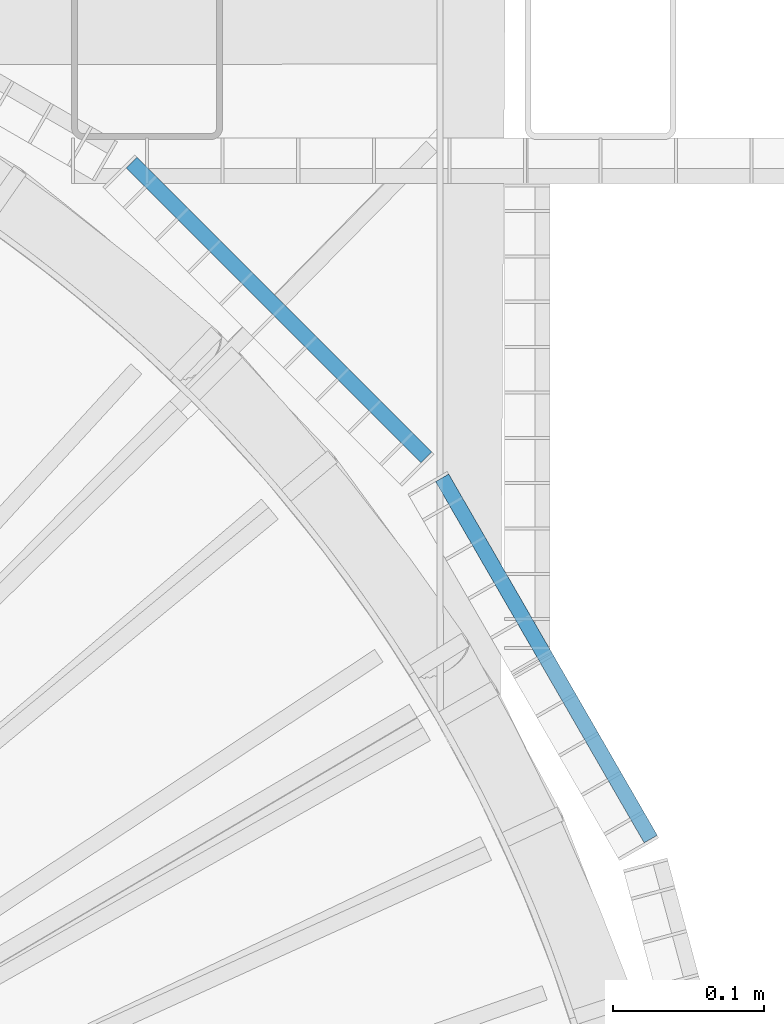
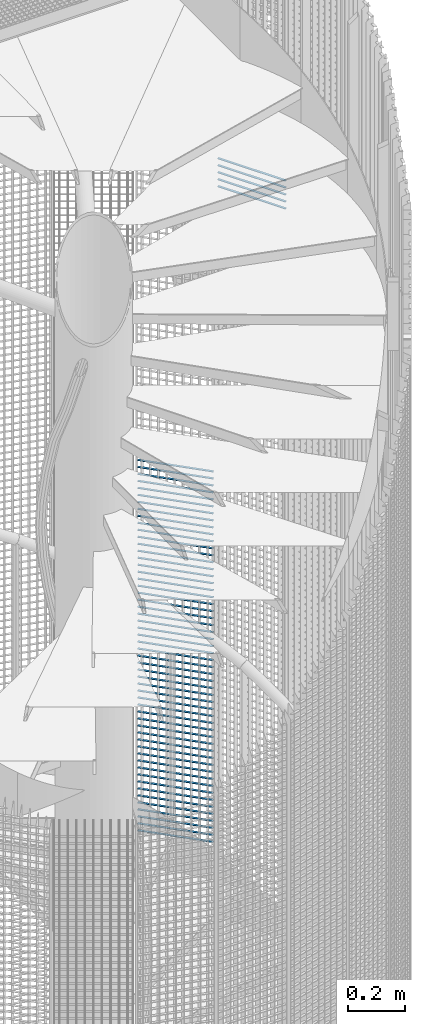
# One storey, part 298 of 1183: 59 beams, 2 elements without a shape of their own.
"""IFC2X3 building model written with IfcOpenShell, lengths in millimetres."""

from ifc_helpers import new_model, si_unit, frame, origin_with_axes, origin_2d_with_axis, place, context, subcontext, project, spatial, rectangle, extrude, material, type_object, element, aggregate, save


model = new_model("IFC2X3")

# Units and contexts
model_context = context("Model", 3, precision=1e-05, world=origin_with_axes())
body_context = subcontext(model_context, "Body", "Model", "MODEL_VIEW")
ifc_project = project(units=[si_unit("LENGTHUNIT", "METRE", prefix="MILLI"), si_unit("AREAUNIT", "SQUARE_METRE"), si_unit("VOLUMEUNIT", "CUBIC_METRE"), si_unit("MASSUNIT", "GRAM", prefix="KILO"), si_unit("TIMEUNIT", "SECOND"), si_unit("PLANEANGLEUNIT", "RADIAN"), si_unit("SOLIDANGLEUNIT", "STERADIAN"), si_unit("THERMODYNAMICTEMPERATUREUNIT", "DEGREE_CELSIUS"), si_unit("LUMINOUSINTENSITYUNIT", "LUMEN")], contexts=[model_context])

# Site, building, storey
site_placement = place(None, origin_with_axes())
site = spatial("IfcSite", under=ifc_project, at=site_placement, Name="Undefined", CompositionType="ELEMENT")
building_placement = place(site_placement, origin_with_axes())
building = spatial("IfcBuilding", under=site, at=building_placement, Name="Undefined", CompositionType="ELEMENT")
storey_placement = place(building_placement, origin_with_axes())
storey = spatial("IfcBuildingStorey", under=building, at=storey_placement, Name="Undefined", CompositionType="ELEMENT", Elevation=0.0)

# Assembly, beams
assembly_1_placement = place(storey_placement, origin_with_axes())
assembly_1 = element("IfcElementAssembly", 1, at=assembly_1_placement, inside=storey, Name="BORDURE", AssemblyPlace="NOTDEFINED", PredefinedType="NOTDEFINED")
ifc_material = material(Name="STEEL/S235JR")
beam_type = type_object("IfcBeamType", Name="PL2*10", PredefinedType="NOTDEFINED")
beam_1_placement = place(assembly_1_placement, frame((884.927168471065, 689.771348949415, 4620.0), z_axis=(0.707106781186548, 0.707106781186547, 0.0), x_axis=(-0.707106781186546, 0.707106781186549, 0.0)))
beam_1 = element("IfcBeam", 2, at=beam_1_placement, type_object=beam_type, material=ifc_material, Name="ENTRETOISE", context=body_context, shape_type="SweptSolid", body=[
    extrude(rectangle(XDim=2.0, YDim=10.0, at=origin_2d_with_axis()), frame((275.999999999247, 9.09494701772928e-13, 1.53210777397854e-14), z_axis=(-1.0, 0.0, 0.0), x_axis=(0.0, -1.0, 0.0)), (0.0, 0.0, 1.0), 276.0),
])
beam_2_placement = place(assembly_1_placement, frame((884.927168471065, 689.771348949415, 4590.0), z_axis=(0.707106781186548, 0.707106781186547, 0.0), x_axis=(-0.707106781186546, 0.707106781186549, 0.0)))
beam_2 = element("IfcBeam", 3, at=beam_2_placement, type_object=beam_type, material=ifc_material, Name="ENTRETOISE", context=body_context, shape_type="SweptSolid", body=[
    extrude(rectangle(XDim=2.0, YDim=10.0, at=origin_2d_with_axis()), frame((275.999999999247, 9.09494701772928e-13, 1.53210777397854e-14), z_axis=(-1.0, 0.0, 0.0), x_axis=(0.0, -1.0, 0.0)), (0.0, 0.0, 1.0), 276.0),
])
beam_3_placement = place(assembly_1_placement, frame((884.927168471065, 689.771348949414, 4560.0), z_axis=(0.707106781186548, 0.707106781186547, 0.0), x_axis=(-0.707106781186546, 0.707106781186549, 0.0)))
beam_3 = element("IfcBeam", 4, at=beam_3_placement, type_object=beam_type, material=ifc_material, Name="ENTRETOISE", context=body_context, shape_type="SweptSolid", body=[
    extrude(rectangle(XDim=2.0, YDim=10.0, at=origin_2d_with_axis()), frame((275.999999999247, 9.09494701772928e-13, 1.53210777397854e-14), z_axis=(-1.0, 0.0, 0.0), x_axis=(0.0, -1.0, 0.0)), (0.0, 0.0, 1.0), 276.0),
])
beam_4_placement = place(assembly_1_placement, frame((884.927168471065, 689.771348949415, 4530.0), z_axis=(0.707106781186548, 0.707106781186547, 0.0), x_axis=(-0.707106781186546, 0.707106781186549, 0.0)))
beam_4 = element("IfcBeam", 5, at=beam_4_placement, type_object=beam_type, material=ifc_material, Name="ENTRETOISE", context=body_context, shape_type="SweptSolid", body=[
    extrude(rectangle(XDim=2.0, YDim=10.0, at=origin_2d_with_axis()), frame((275.999999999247, 9.09494701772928e-13, 1.53210777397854e-14), z_axis=(-1.0, 0.0, 0.0), x_axis=(0.0, -1.0, 0.0)), (0.0, 0.0, 1.0), 276.0),
])
beam_5_placement = place(assembly_1_placement, frame((884.927168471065, 689.771348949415, 4500.0), z_axis=(0.707106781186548, 0.707106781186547, 0.0), x_axis=(-0.707106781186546, 0.707106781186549, 0.0)))
beam_5 = element("IfcBeam", 6, at=beam_5_placement, type_object=beam_type, material=ifc_material, Name="ENTRETOISE", context=body_context, shape_type="SweptSolid", body=[
    extrude(rectangle(XDim=2.0, YDim=10.0, at=origin_2d_with_axis()), frame((275.999999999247, 9.09494701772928e-13, 1.53210777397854e-14), z_axis=(-1.0, 0.0, 0.0), x_axis=(0.0, -1.0, 0.0)), (0.0, 0.0, 1.0), 276.0),
])
beam_6_placement = place(assembly_1_placement, frame((884.927168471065, 689.771348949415, 4470.0), z_axis=(0.707106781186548, 0.707106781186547, 0.0), x_axis=(-0.707106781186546, 0.707106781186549, 0.0)))
beam_6 = element("IfcBeam", 7, at=beam_6_placement, type_object=beam_type, material=ifc_material, Name="ENTRETOISE", context=body_context, shape_type="SweptSolid", body=[
    extrude(rectangle(XDim=2.0, YDim=10.0, at=origin_2d_with_axis()), frame((275.999999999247, 9.09494701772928e-13, 1.53210777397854e-14), z_axis=(-1.0, 0.0, 0.0), x_axis=(0.0, -1.0, 0.0)), (0.0, 0.0, 1.0), 276.0),
])
beam_7_placement = place(assembly_1_placement, frame((884.927168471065, 689.771348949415, 4440.0), z_axis=(0.707106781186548, 0.707106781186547, 0.0), x_axis=(-0.707106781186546, 0.707106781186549, 0.0)))
beam_7 = element("IfcBeam", 8, at=beam_7_placement, type_object=beam_type, material=ifc_material, Name="ENTRETOISE", context=body_context, shape_type="SweptSolid", body=[
    extrude(rectangle(XDim=2.0, YDim=10.0, at=origin_2d_with_axis()), frame((275.999999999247, 9.09494701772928e-13, 1.53210777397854e-14), z_axis=(-1.0, 0.0, 0.0), x_axis=(0.0, -1.0, 0.0)), (0.0, 0.0, 1.0), 276.0),
])
beam_8_placement = place(assembly_1_placement, frame((884.927168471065, 689.771348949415, 4410.0), z_axis=(0.707106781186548, 0.707106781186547, 0.0), x_axis=(-0.707106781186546, 0.707106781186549, 0.0)))
beam_8 = element("IfcBeam", 9, at=beam_8_placement, type_object=beam_type, material=ifc_material, Name="ENTRETOISE", context=body_context, shape_type="SweptSolid", body=[
    extrude(rectangle(XDim=2.0, YDim=10.0, at=origin_2d_with_axis()), frame((275.999999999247, 9.09494701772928e-13, 1.53210777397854e-14), z_axis=(-1.0, 0.0, 0.0), x_axis=(0.0, -1.0, 0.0)), (0.0, 0.0, 1.0), 276.0),
])
beam_9_placement = place(assembly_1_placement, frame((884.927168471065, 689.771348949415, 4380.0), z_axis=(0.707106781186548, 0.707106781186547, 0.0), x_axis=(-0.707106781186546, 0.707106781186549, 0.0)))
beam_9 = element("IfcBeam", 10, at=beam_9_placement, type_object=beam_type, material=ifc_material, Name="ENTRETOISE", context=body_context, shape_type="SweptSolid", body=[
    extrude(rectangle(XDim=2.0, YDim=10.0, at=origin_2d_with_axis()), frame((275.999999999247, 9.09494701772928e-13, 1.53210777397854e-14), z_axis=(-1.0, 0.0, 0.0), x_axis=(0.0, -1.0, 0.0)), (0.0, 0.0, 1.0), 276.0),
])
beam_10_placement = place(assembly_1_placement, frame((884.927168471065, 689.771348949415, 4350.0), z_axis=(0.707106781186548, 0.707106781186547, 0.0), x_axis=(-0.707106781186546, 0.707106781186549, 0.0)))
beam_10 = element("IfcBeam", 11, at=beam_10_placement, type_object=beam_type, material=ifc_material, Name="ENTRETOISE", context=body_context, shape_type="SweptSolid", body=[
    extrude(rectangle(XDim=2.0, YDim=10.0, at=origin_2d_with_axis()), frame((275.999999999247, 9.09494701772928e-13, 1.53210777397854e-14), z_axis=(-1.0, 0.0, 0.0), x_axis=(0.0, -1.0, 0.0)), (0.0, 0.0, 1.0), 276.0),
])
beam_11_placement = place(assembly_1_placement, frame((884.927168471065, 689.771348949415, 4320.0), z_axis=(0.707106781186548, 0.707106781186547, 0.0), x_axis=(-0.707106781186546, 0.707106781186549, 0.0)))
beam_11 = element("IfcBeam", 12, at=beam_11_placement, type_object=beam_type, material=ifc_material, Name="ENTRETOISE", context=body_context, shape_type="SweptSolid", body=[
    extrude(rectangle(XDim=2.0, YDim=10.0, at=origin_2d_with_axis()), frame((275.999999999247, 9.09494701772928e-13, 1.53210777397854e-14), z_axis=(-1.0, 0.0, 0.0), x_axis=(0.0, -1.0, 0.0)), (0.0, 0.0, 1.0), 276.0),
])
beam_12_placement = place(assembly_1_placement, frame((884.927168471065, 689.771348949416, 4290.0), z_axis=(0.707106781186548, 0.707106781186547, 0.0), x_axis=(-0.707106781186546, 0.707106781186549, 0.0)))
beam_12 = element("IfcBeam", 13, at=beam_12_placement, type_object=beam_type, material=ifc_material, Name="ENTRETOISE", context=body_context, shape_type="SweptSolid", body=[
    extrude(rectangle(XDim=2.0, YDim=10.0, at=origin_2d_with_axis()), frame((275.999999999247, 9.09494701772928e-13, 1.53210777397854e-14), z_axis=(-1.0, 0.0, 0.0), x_axis=(0.0, -1.0, 0.0)), (0.0, 0.0, 1.0), 276.0),
])
beam_13_placement = place(assembly_1_placement, frame((884.927168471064, 689.771348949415, 4260.0), z_axis=(0.707106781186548, 0.707106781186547, 0.0), x_axis=(-0.707106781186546, 0.707106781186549, 0.0)))
beam_13 = element("IfcBeam", 14, at=beam_13_placement, type_object=beam_type, material=ifc_material, Name="ENTRETOISE", context=body_context, shape_type="SweptSolid", body=[
    extrude(rectangle(XDim=2.0, YDim=10.0, at=origin_2d_with_axis()), frame((275.999999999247, 9.09494701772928e-13, 1.53210777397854e-14), z_axis=(-1.0, 0.0, 0.0), x_axis=(0.0, -1.0, 0.0)), (0.0, 0.0, 1.0), 276.0),
])
beam_14_placement = place(assembly_1_placement, frame((884.927168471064, 689.771348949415, 4230.0), z_axis=(0.707106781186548, 0.707106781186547, 0.0), x_axis=(-0.707106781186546, 0.707106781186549, 0.0)))
beam_14 = element("IfcBeam", 15, at=beam_14_placement, type_object=beam_type, material=ifc_material, Name="ENTRETOISE", context=body_context, shape_type="SweptSolid", body=[
    extrude(rectangle(XDim=2.0, YDim=10.0, at=origin_2d_with_axis()), frame((275.999999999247, 9.09494701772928e-13, 1.53210777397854e-14), z_axis=(-1.0, 0.0, 0.0), x_axis=(0.0, -1.0, 0.0)), (0.0, 0.0, 1.0), 276.0),
])
beam_15_placement = place(assembly_1_placement, frame((884.927168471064, 689.771348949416, 4200.0), z_axis=(0.707106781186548, 0.707106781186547, 0.0), x_axis=(-0.707106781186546, 0.707106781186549, 0.0)))
beam_15 = element("IfcBeam", 16, at=beam_15_placement, type_object=beam_type, material=ifc_material, Name="ENTRETOISE", context=body_context, shape_type="SweptSolid", body=[
    extrude(rectangle(XDim=2.0, YDim=10.0, at=origin_2d_with_axis()), frame((275.999999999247, 9.09494701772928e-13, 1.53210777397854e-14), z_axis=(-1.0, 0.0, 0.0), x_axis=(0.0, -1.0, 0.0)), (0.0, 0.0, 1.0), 276.0),
])
beam_16_placement = place(assembly_1_placement, frame((884.927168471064, 689.771348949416, 4170.0), z_axis=(0.707106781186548, 0.707106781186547, 0.0), x_axis=(-0.707106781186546, 0.707106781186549, 0.0)))
beam_16 = element("IfcBeam", 17, at=beam_16_placement, type_object=beam_type, material=ifc_material, Name="ENTRETOISE", context=body_context, shape_type="SweptSolid", body=[
    extrude(rectangle(XDim=2.0, YDim=10.0, at=origin_2d_with_axis()), frame((275.999999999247, 9.09494701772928e-13, 1.53210777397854e-14), z_axis=(-1.0, 0.0, 0.0), x_axis=(0.0, -1.0, 0.0)), (0.0, 0.0, 1.0), 276.0),
])
beam_17_placement = place(assembly_1_placement, frame((884.927168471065, 689.771348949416, 4140.0), z_axis=(0.707106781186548, 0.707106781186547, 0.0), x_axis=(-0.707106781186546, 0.707106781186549, 0.0)))
beam_17 = element("IfcBeam", 18, at=beam_17_placement, type_object=beam_type, material=ifc_material, Name="ENTRETOISE", context=body_context, shape_type="SweptSolid", body=[
    extrude(rectangle(XDim=2.0, YDim=10.0, at=origin_2d_with_axis()), frame((275.999999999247, 9.09494701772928e-13, 1.53210777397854e-14), z_axis=(-1.0, 0.0, 0.0), x_axis=(0.0, -1.0, 0.0)), (0.0, 0.0, 1.0), 276.0),
])
beam_18_placement = place(assembly_1_placement, frame((884.927168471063, 689.771348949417, 3720.0), z_axis=(0.707106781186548, 0.707106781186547, 0.0), x_axis=(-0.707106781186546, 0.707106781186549, 0.0)))
beam_18 = element("IfcBeam", 19, at=beam_18_placement, type_object=beam_type, material=ifc_material, Name="ENTRETOISE", context=body_context, shape_type="SweptSolid", body=[
    extrude(rectangle(XDim=2.0, YDim=10.0, at=origin_2d_with_axis()), frame((275.999999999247, 9.09494701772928e-13, 1.53210777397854e-14), z_axis=(-1.0, 0.0, 0.0), x_axis=(0.0, -1.0, 0.0)), (0.0, 0.0, 1.0), 276.0),
])
beam_19_placement = place(assembly_1_placement, frame((884.927168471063, 689.771348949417, 3690.0), z_axis=(0.707106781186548, 0.707106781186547, 0.0), x_axis=(-0.707106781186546, 0.707106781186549, 0.0)))
beam_19 = element("IfcBeam", 20, at=beam_19_placement, type_object=beam_type, material=ifc_material, Name="ENTRETOISE", context=body_context, shape_type="SweptSolid", body=[
    extrude(rectangle(XDim=2.0, YDim=10.0, at=origin_2d_with_axis()), frame((275.999999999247, 9.09494701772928e-13, 1.53210777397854e-14), z_axis=(-1.0, 0.0, 0.0), x_axis=(0.0, -1.0, 0.0)), (0.0, 0.0, 1.0), 276.0),
])
beam_20_placement = place(assembly_1_placement, frame((884.927168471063, 689.771348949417, 3750.0), z_axis=(0.707106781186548, 0.707106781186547, 0.0), x_axis=(-0.707106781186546, 0.707106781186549, 0.0)))
beam_20 = element("IfcBeam", 21, at=beam_20_placement, type_object=beam_type, material=ifc_material, Name="ENTRETOISE", context=body_context, shape_type="SweptSolid", body=[
    extrude(rectangle(XDim=2.0, YDim=10.0, at=origin_2d_with_axis()), frame((275.999999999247, 9.09494701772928e-13, 1.53210777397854e-14), z_axis=(-1.0, 0.0, 0.0), x_axis=(0.0, -1.0, 0.0)), (0.0, 0.0, 1.0), 276.0),
])
beam_21_placement = place(assembly_1_placement, frame((884.927168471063, 689.771348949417, 3660.0), z_axis=(0.707106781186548, 0.707106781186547, 0.0), x_axis=(-0.707106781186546, 0.707106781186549, 0.0)))
beam_21 = element("IfcBeam", 22, at=beam_21_placement, type_object=beam_type, material=ifc_material, Name="ENTRETOISE", context=body_context, shape_type="SweptSolid", body=[
    extrude(rectangle(XDim=2.0, YDim=10.0, at=origin_2d_with_axis()), frame((275.999999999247, 9.09494701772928e-13, 1.53210777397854e-14), z_axis=(-1.0, 0.0, 0.0), x_axis=(0.0, -1.0, 0.0)), (0.0, 0.0, 1.0), 276.0),
])
beam_22_placement = place(assembly_1_placement, frame((884.927168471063, 689.771348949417, 3630.0), z_axis=(0.707106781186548, 0.707106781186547, 0.0), x_axis=(-0.707106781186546, 0.707106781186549, 0.0)))
beam_22 = element("IfcBeam", 23, at=beam_22_placement, type_object=beam_type, material=ifc_material, Name="ENTRETOISE", context=body_context, shape_type="SweptSolid", body=[
    extrude(rectangle(XDim=2.0, YDim=10.0, at=origin_2d_with_axis()), frame((275.999999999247, 9.09494701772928e-13, 1.53210777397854e-14), z_axis=(-1.0, 0.0, 0.0), x_axis=(0.0, -1.0, 0.0)), (0.0, 0.0, 1.0), 276.0),
])
beam_23_placement = place(assembly_1_placement, frame((884.927168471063, 689.771348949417, 3780.0), z_axis=(0.707106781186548, 0.707106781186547, 0.0), x_axis=(-0.707106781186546, 0.707106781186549, 0.0)))
beam_23 = element("IfcBeam", 24, at=beam_23_placement, type_object=beam_type, material=ifc_material, Name="ENTRETOISE", context=body_context, shape_type="SweptSolid", body=[
    extrude(rectangle(XDim=2.0, YDim=10.0, at=origin_2d_with_axis()), frame((275.999999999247, 9.09494701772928e-13, 1.53210777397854e-14), z_axis=(-1.0, 0.0, 0.0), x_axis=(0.0, -1.0, 0.0)), (0.0, 0.0, 1.0), 276.0),
])
beam_24_placement = place(assembly_1_placement, frame((884.927168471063, 689.771348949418, 3600.0), z_axis=(0.707106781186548, 0.707106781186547, 0.0), x_axis=(-0.707106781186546, 0.707106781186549, 0.0)))
beam_24 = element("IfcBeam", 25, at=beam_24_placement, type_object=beam_type, material=ifc_material, Name="ENTRETOISE", context=body_context, shape_type="SweptSolid", body=[
    extrude(rectangle(XDim=2.0, YDim=10.0, at=origin_2d_with_axis()), frame((275.999999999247, 9.09494701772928e-13, 1.53210777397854e-14), z_axis=(-1.0, 0.0, 0.0), x_axis=(0.0, -1.0, 0.0)), (0.0, 0.0, 1.0), 276.0),
])
beam_25_placement = place(assembly_1_placement, frame((884.927168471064, 689.771348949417, 3810.0), z_axis=(0.707106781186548, 0.707106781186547, 0.0), x_axis=(-0.707106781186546, 0.707106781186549, 0.0)))
beam_25 = element("IfcBeam", 26, at=beam_25_placement, type_object=beam_type, material=ifc_material, Name="ENTRETOISE", context=body_context, shape_type="SweptSolid", body=[
    extrude(rectangle(XDim=2.0, YDim=10.0, at=origin_2d_with_axis()), frame((275.999999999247, 9.09494701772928e-13, 1.53210777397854e-14), z_axis=(-1.0, 0.0, 0.0), x_axis=(0.0, -1.0, 0.0)), (0.0, 0.0, 1.0), 276.0),
])
beam_26_placement = place(assembly_1_placement, frame((884.927168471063, 689.771348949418, 3570.0), z_axis=(0.707106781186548, 0.707106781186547, 0.0), x_axis=(-0.707106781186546, 0.707106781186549, 0.0)))
beam_26 = element("IfcBeam", 27, at=beam_26_placement, type_object=beam_type, material=ifc_material, Name="ENTRETOISE", context=body_context, shape_type="SweptSolid", body=[
    extrude(rectangle(XDim=2.0, YDim=10.0, at=origin_2d_with_axis()), frame((275.999999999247, 9.09494701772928e-13, 1.53210777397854e-14), z_axis=(-1.0, 0.0, 0.0), x_axis=(0.0, -1.0, 0.0)), (0.0, 0.0, 1.0), 276.0),
])
beam_27_placement = place(assembly_1_placement, frame((884.927168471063, 689.771348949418, 3540.0), z_axis=(0.707106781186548, 0.707106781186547, 0.0), x_axis=(-0.707106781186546, 0.707106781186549, 0.0)))
beam_27 = element("IfcBeam", 28, at=beam_27_placement, type_object=beam_type, material=ifc_material, Name="ENTRETOISE", context=body_context, shape_type="SweptSolid", body=[
    extrude(rectangle(XDim=2.0, YDim=10.0, at=origin_2d_with_axis()), frame((275.999999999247, 9.09494701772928e-13, 1.53210777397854e-14), z_axis=(-1.0, 0.0, 0.0), x_axis=(0.0, -1.0, 0.0)), (0.0, 0.0, 1.0), 276.0),
])
beam_28_placement = place(assembly_1_placement, frame((884.927168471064, 689.771348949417, 3840.0), z_axis=(0.707106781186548, 0.707106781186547, 0.0), x_axis=(-0.707106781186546, 0.707106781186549, 0.0)))
beam_28 = element("IfcBeam", 29, at=beam_28_placement, type_object=beam_type, material=ifc_material, Name="ENTRETOISE", context=body_context, shape_type="SweptSolid", body=[
    extrude(rectangle(XDim=2.0, YDim=10.0, at=origin_2d_with_axis()), frame((275.999999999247, 9.09494701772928e-13, 1.53210777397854e-14), z_axis=(-1.0, 0.0, 0.0), x_axis=(0.0, -1.0, 0.0)), (0.0, 0.0, 1.0), 276.0),
])
beam_29_placement = place(assembly_1_placement, frame((884.927168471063, 689.771348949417, 3510.0), z_axis=(0.707106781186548, 0.707106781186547, 0.0), x_axis=(-0.707106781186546, 0.707106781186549, 0.0)))
beam_29 = element("IfcBeam", 30, at=beam_29_placement, type_object=beam_type, material=ifc_material, Name="ENTRETOISE", context=body_context, shape_type="SweptSolid", body=[
    extrude(rectangle(XDim=2.0, YDim=10.0, at=origin_2d_with_axis()), frame((275.999999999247, 9.09494701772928e-13, 1.53210777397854e-14), z_axis=(-1.0, 0.0, 0.0), x_axis=(0.0, -1.0, 0.0)), (0.0, 0.0, 1.0), 276.0),
])
beam_30_placement = place(assembly_1_placement, frame((884.927168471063, 689.771348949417, 3480.0), z_axis=(0.707106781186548, 0.707106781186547, 0.0), x_axis=(-0.707106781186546, 0.707106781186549, 0.0)))
beam_30 = element("IfcBeam", 31, at=beam_30_placement, type_object=beam_type, material=ifc_material, Name="ENTRETOISE", context=body_context, shape_type="SweptSolid", body=[
    extrude(rectangle(XDim=2.0, YDim=10.0, at=origin_2d_with_axis()), frame((275.999999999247, 9.09494701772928e-13, 1.53210777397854e-14), z_axis=(-1.0, 0.0, 0.0), x_axis=(0.0, -1.0, 0.0)), (0.0, 0.0, 1.0), 276.0),
])
beam_31_placement = place(assembly_1_placement, frame((884.927168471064, 689.771348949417, 3870.0), z_axis=(0.707106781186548, 0.707106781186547, 0.0), x_axis=(-0.707106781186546, 0.707106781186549, 0.0)))
beam_31 = element("IfcBeam", 32, at=beam_31_placement, type_object=beam_type, material=ifc_material, Name="ENTRETOISE", context=body_context, shape_type="SweptSolid", body=[
    extrude(rectangle(XDim=2.0, YDim=10.0, at=origin_2d_with_axis()), frame((275.999999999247, 9.09494701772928e-13, 1.53210777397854e-14), z_axis=(-1.0, 0.0, 0.0), x_axis=(0.0, -1.0, 0.0)), (0.0, 0.0, 1.0), 276.0),
])
beam_32_placement = place(assembly_1_placement, frame((884.927168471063, 689.771348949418, 3450.0), z_axis=(0.707106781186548, 0.707106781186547, 0.0), x_axis=(-0.707106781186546, 0.707106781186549, 0.0)))
beam_32 = element("IfcBeam", 33, at=beam_32_placement, type_object=beam_type, material=ifc_material, Name="ENTRETOISE", context=body_context, shape_type="SweptSolid", body=[
    extrude(rectangle(XDim=2.0, YDim=10.0, at=origin_2d_with_axis()), frame((275.999999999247, 9.09494701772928e-13, 1.53210777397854e-14), z_axis=(-1.0, 0.0, 0.0), x_axis=(0.0, -1.0, 0.0)), (0.0, 0.0, 1.0), 276.0),
])
beam_33_placement = place(assembly_1_placement, frame((884.927168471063, 689.771348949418, 3420.0), z_axis=(0.707106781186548, 0.707106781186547, 0.0), x_axis=(-0.707106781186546, 0.707106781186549, 0.0)))
beam_33 = element("IfcBeam", 34, at=beam_33_placement, type_object=beam_type, material=ifc_material, Name="ENTRETOISE", context=body_context, shape_type="SweptSolid", body=[
    extrude(rectangle(XDim=2.0, YDim=10.0, at=origin_2d_with_axis()), frame((275.999999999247, 9.09494701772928e-13, 1.53210777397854e-14), z_axis=(-1.0, 0.0, 0.0), x_axis=(0.0, -1.0, 0.0)), (0.0, 0.0, 1.0), 276.0),
])
beam_34_placement = place(assembly_1_placement, frame((884.927168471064, 689.771348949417, 3900.0), z_axis=(0.707106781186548, 0.707106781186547, 0.0), x_axis=(-0.707106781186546, 0.707106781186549, 0.0)))
beam_34 = element("IfcBeam", 35, at=beam_34_placement, type_object=beam_type, material=ifc_material, Name="ENTRETOISE", context=body_context, shape_type="SweptSolid", body=[
    extrude(rectangle(XDim=2.0, YDim=10.0, at=origin_2d_with_axis()), frame((275.999999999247, 9.09494701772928e-13, 1.53210777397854e-14), z_axis=(-1.0, 0.0, 0.0), x_axis=(0.0, -1.0, 0.0)), (0.0, 0.0, 1.0), 276.0),
])
beam_35_placement = place(assembly_1_placement, frame((884.927168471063, 689.771348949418, 3390.0), z_axis=(0.707106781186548, 0.707106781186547, 0.0), x_axis=(-0.707106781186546, 0.707106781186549, 0.0)))
beam_35 = element("IfcBeam", 36, at=beam_35_placement, type_object=beam_type, material=ifc_material, Name="ENTRETOISE", context=body_context, shape_type="SweptSolid", body=[
    extrude(rectangle(XDim=2.0, YDim=10.0, at=origin_2d_with_axis()), frame((275.999999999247, 9.09494701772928e-13, 1.53210777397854e-14), z_axis=(-1.0, 0.0, 0.0), x_axis=(0.0, -1.0, 0.0)), (0.0, 0.0, 1.0), 276.0),
])
beam_36_placement = place(assembly_1_placement, frame((884.927168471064, 689.771348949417, 3930.0), z_axis=(0.707106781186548, 0.707106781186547, 0.0), x_axis=(-0.707106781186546, 0.707106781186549, 0.0)))
beam_36 = element("IfcBeam", 37, at=beam_36_placement, type_object=beam_type, material=ifc_material, Name="ENTRETOISE", context=body_context, shape_type="SweptSolid", body=[
    extrude(rectangle(XDim=2.0, YDim=10.0, at=origin_2d_with_axis()), frame((275.999999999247, 9.09494701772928e-13, 1.53210777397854e-14), z_axis=(-1.0, 0.0, 0.0), x_axis=(0.0, -1.0, 0.0)), (0.0, 0.0, 1.0), 276.0),
])
beam_37_placement = place(assembly_1_placement, frame((884.927168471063, 689.771348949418, 3360.0), z_axis=(0.707106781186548, 0.707106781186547, 0.0), x_axis=(-0.707106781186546, 0.707106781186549, 0.0)))
beam_37 = element("IfcBeam", 38, at=beam_37_placement, type_object=beam_type, material=ifc_material, Name="ENTRETOISE", context=body_context, shape_type="SweptSolid", body=[
    extrude(rectangle(XDim=2.0, YDim=10.0, at=origin_2d_with_axis()), frame((275.999999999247, 9.09494701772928e-13, 1.53210777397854e-14), z_axis=(-1.0, 0.0, 0.0), x_axis=(0.0, -1.0, 0.0)), (0.0, 0.0, 1.0), 276.0),
])
beam_38_placement = place(assembly_1_placement, frame((884.927168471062, 689.771348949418, 3330.0), z_axis=(0.707106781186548, 0.707106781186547, 0.0), x_axis=(-0.707106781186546, 0.707106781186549, 0.0)))
beam_38 = element("IfcBeam", 39, at=beam_38_placement, type_object=beam_type, material=ifc_material, Name="ENTRETOISE", context=body_context, shape_type="SweptSolid", body=[
    extrude(rectangle(XDim=2.0, YDim=10.0, at=origin_2d_with_axis()), frame((275.999999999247, 9.09494701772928e-13, 1.53210777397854e-14), z_axis=(-1.0, 0.0, 0.0), x_axis=(0.0, -1.0, 0.0)), (0.0, 0.0, 1.0), 276.0),
])
beam_39_placement = place(assembly_1_placement, frame((884.927168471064, 689.771348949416, 3960.0), z_axis=(0.707106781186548, 0.707106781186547, 0.0), x_axis=(-0.707106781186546, 0.707106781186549, 0.0)))
beam_39 = element("IfcBeam", 40, at=beam_39_placement, type_object=beam_type, material=ifc_material, Name="ENTRETOISE", context=body_context, shape_type="SweptSolid", body=[
    extrude(rectangle(XDim=2.0, YDim=10.0, at=origin_2d_with_axis()), frame((275.999999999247, 9.09494701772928e-13, 1.53210777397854e-14), z_axis=(-1.0, 0.0, 0.0), x_axis=(0.0, -1.0, 0.0)), (0.0, 0.0, 1.0), 276.0),
])
beam_40_placement = place(assembly_1_placement, frame((884.927168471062, 689.771348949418, 3300.0), z_axis=(0.707106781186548, 0.707106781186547, 0.0), x_axis=(-0.707106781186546, 0.707106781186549, 0.0)))
beam_40 = element("IfcBeam", 41, at=beam_40_placement, type_object=beam_type, material=ifc_material, Name="ENTRETOISE", context=body_context, shape_type="SweptSolid", body=[
    extrude(rectangle(XDim=2.0, YDim=10.0, at=origin_2d_with_axis()), frame((275.999999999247, 9.09494701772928e-13, 1.53210777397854e-14), z_axis=(-1.0, 0.0, 0.0), x_axis=(0.0, -1.0, 0.0)), (0.0, 0.0, 1.0), 276.0),
])
beam_41_placement = place(assembly_1_placement, frame((884.927168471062, 689.771348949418, 3270.0), z_axis=(0.707106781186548, 0.707106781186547, 0.0), x_axis=(-0.707106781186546, 0.707106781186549, 0.0)))
beam_41 = element("IfcBeam", 42, at=beam_41_placement, type_object=beam_type, material=ifc_material, Name="ENTRETOISE", context=body_context, shape_type="SweptSolid", body=[
    extrude(rectangle(XDim=2.0, YDim=10.0, at=origin_2d_with_axis()), frame((275.999999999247, 9.09494701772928e-13, 1.53210777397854e-14), z_axis=(-1.0, 0.0, 0.0), x_axis=(0.0, -1.0, 0.0)), (0.0, 0.0, 1.0), 276.0),
])
beam_42_placement = place(assembly_1_placement, frame((884.927168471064, 689.771348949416, 3990.0), z_axis=(0.707106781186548, 0.707106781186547, 0.0), x_axis=(-0.707106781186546, 0.707106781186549, 0.0)))
beam_42 = element("IfcBeam", 43, at=beam_42_placement, type_object=beam_type, material=ifc_material, Name="ENTRETOISE", context=body_context, shape_type="SweptSolid", body=[
    extrude(rectangle(XDim=2.0, YDim=10.0, at=origin_2d_with_axis()), frame((275.999999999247, 9.09494701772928e-13, 1.53210777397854e-14), z_axis=(-1.0, 0.0, 0.0), x_axis=(0.0, -1.0, 0.0)), (0.0, 0.0, 1.0), 276.0),
])
beam_43_placement = place(assembly_1_placement, frame((884.927168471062, 689.771348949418, 3240.0), z_axis=(0.707106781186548, 0.707106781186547, 0.0), x_axis=(-0.707106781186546, 0.707106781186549, 0.0)))
beam_43 = element("IfcBeam", 44, at=beam_43_placement, type_object=beam_type, material=ifc_material, Name="ENTRETOISE", context=body_context, shape_type="SweptSolid", body=[
    extrude(rectangle(XDim=2.0, YDim=10.0, at=origin_2d_with_axis()), frame((275.999999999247, 9.09494701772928e-13, 1.53210777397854e-14), z_axis=(-1.0, 0.0, 0.0), x_axis=(0.0, -1.0, 0.0)), (0.0, 0.0, 1.0), 276.0),
])
beam_44_placement = place(assembly_1_placement, frame((884.927168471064, 689.771348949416, 4020.0), z_axis=(0.707106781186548, 0.707106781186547, 0.0), x_axis=(-0.707106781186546, 0.707106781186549, 0.0)))
beam_44 = element("IfcBeam", 45, at=beam_44_placement, type_object=beam_type, material=ifc_material, Name="ENTRETOISE", context=body_context, shape_type="SweptSolid", body=[
    extrude(rectangle(XDim=2.0, YDim=10.0, at=origin_2d_with_axis()), frame((275.999999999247, 9.09494701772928e-13, 1.53210777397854e-14), z_axis=(-1.0, 0.0, 0.0), x_axis=(0.0, -1.0, 0.0)), (0.0, 0.0, 1.0), 276.0),
])
beam_45_placement = place(assembly_1_placement, frame((884.927168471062, 689.771348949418, 3210.0), z_axis=(0.707106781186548, 0.707106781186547, 0.0), x_axis=(-0.707106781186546, 0.707106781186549, 0.0)))
beam_45 = element("IfcBeam", 46, at=beam_45_placement, type_object=beam_type, material=ifc_material, Name="ENTRETOISE", context=body_context, shape_type="SweptSolid", body=[
    extrude(rectangle(XDim=2.0, YDim=10.0, at=origin_2d_with_axis()), frame((275.999999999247, 9.09494701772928e-13, 1.53210777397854e-14), z_axis=(-1.0, 0.0, 0.0), x_axis=(0.0, -1.0, 0.0)), (0.0, 0.0, 1.0), 276.0),
])
beam_46_placement = place(assembly_1_placement, frame((884.927168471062, 689.771348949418, 3180.0), z_axis=(0.707106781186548, 0.707106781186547, 0.0), x_axis=(-0.707106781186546, 0.707106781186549, 0.0)))
beam_46 = element("IfcBeam", 47, at=beam_46_placement, type_object=beam_type, material=ifc_material, Name="ENTRETOISE", context=body_context, shape_type="SweptSolid", body=[
    extrude(rectangle(XDim=2.0, YDim=10.0, at=origin_2d_with_axis()), frame((275.999999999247, 9.09494701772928e-13, 1.53210777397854e-14), z_axis=(-1.0, 0.0, 0.0), x_axis=(0.0, -1.0, 0.0)), (0.0, 0.0, 1.0), 276.0),
])
beam_47_placement = place(assembly_1_placement, frame((884.927168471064, 689.771348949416, 4050.0), z_axis=(0.707106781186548, 0.707106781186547, 0.0), x_axis=(-0.707106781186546, 0.707106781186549, 0.0)))
beam_47 = element("IfcBeam", 48, at=beam_47_placement, type_object=beam_type, material=ifc_material, Name="ENTRETOISE", context=body_context, shape_type="SweptSolid", body=[
    extrude(rectangle(XDim=2.0, YDim=10.0, at=origin_2d_with_axis()), frame((275.999999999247, 9.09494701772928e-13, 1.53210777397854e-14), z_axis=(-1.0, 0.0, 0.0), x_axis=(0.0, -1.0, 0.0)), (0.0, 0.0, 1.0), 276.0),
])
beam_48_placement = place(assembly_1_placement, frame((884.927168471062, 689.771348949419, 3150.0), z_axis=(0.707106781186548, 0.707106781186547, 0.0), x_axis=(-0.707106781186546, 0.707106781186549, 0.0)))
beam_48 = element("IfcBeam", 49, at=beam_48_placement, type_object=beam_type, material=ifc_material, Name="ENTRETOISE", context=body_context, shape_type="SweptSolid", body=[
    extrude(rectangle(XDim=2.0, YDim=10.0, at=origin_2d_with_axis()), frame((275.999999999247, 9.09494701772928e-13, 1.53210777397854e-14), z_axis=(-1.0, 0.0, 0.0), x_axis=(0.0, -1.0, 0.0)), (0.0, 0.0, 1.0), 276.0),
])
beam_49_placement = place(assembly_1_placement, frame((884.927168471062, 689.771348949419, 3120.0), z_axis=(0.707106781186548, 0.707106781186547, 0.0), x_axis=(-0.707106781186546, 0.707106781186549, 0.0)))
beam_49 = element("IfcBeam", 50, at=beam_49_placement, type_object=beam_type, material=ifc_material, Name="ENTRETOISE", context=body_context, shape_type="SweptSolid", body=[
    extrude(rectangle(XDim=2.0, YDim=10.0, at=origin_2d_with_axis()), frame((275.999999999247, 9.09494701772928e-13, 1.53210777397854e-14), z_axis=(-1.0, 0.0, 0.0), x_axis=(0.0, -1.0, 0.0)), (0.0, 0.0, 1.0), 276.0),
])
beam_50_placement = place(assembly_1_placement, frame((884.927168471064, 689.771348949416, 4080.0), z_axis=(0.707106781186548, 0.707106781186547, 0.0), x_axis=(-0.707106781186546, 0.707106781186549, 0.0)))
beam_50 = element("IfcBeam", 51, at=beam_50_placement, type_object=beam_type, material=ifc_material, Name="ENTRETOISE", context=body_context, shape_type="SweptSolid", body=[
    extrude(rectangle(XDim=2.0, YDim=10.0, at=origin_2d_with_axis()), frame((275.999999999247, 9.09494701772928e-13, 1.53210777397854e-14), z_axis=(-1.0, 0.0, 0.0), x_axis=(0.0, -1.0, 0.0)), (0.0, 0.0, 1.0), 276.0),
])
beam_51_placement = place(assembly_1_placement, frame((884.927168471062, 689.771348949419, 3090.0), z_axis=(0.707106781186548, 0.707106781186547, 0.0), x_axis=(-0.707106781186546, 0.707106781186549, 0.0)))
beam_51 = element("IfcBeam", 52, at=beam_51_placement, type_object=beam_type, material=ifc_material, Name="ENTRETOISE", context=body_context, shape_type="SweptSolid", body=[
    extrude(rectangle(XDim=2.0, YDim=10.0, at=origin_2d_with_axis()), frame((275.999999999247, 9.09494701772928e-13, 1.53210777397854e-14), z_axis=(-1.0, 0.0, 0.0), x_axis=(0.0, -1.0, 0.0)), (0.0, 0.0, 1.0), 276.0),
])
beam_52_placement = place(assembly_1_placement, frame((884.927168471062, 689.771348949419, 3060.0), z_axis=(0.707106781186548, 0.707106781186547, 0.0), x_axis=(-0.707106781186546, 0.707106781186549, 0.0)))
beam_52 = element("IfcBeam", 53, at=beam_52_placement, type_object=beam_type, material=ifc_material, Name="ENTRETOISE", context=body_context, shape_type="SweptSolid", body=[
    extrude(rectangle(XDim=2.0, YDim=10.0, at=origin_2d_with_axis()), frame((275.999999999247, 9.09494701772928e-13, 1.53210777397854e-14), z_axis=(-1.0, 0.0, 0.0), x_axis=(0.0, -1.0, 0.0)), (0.0, 0.0, 1.0), 276.0),
])
beam_53_placement = place(assembly_1_placement, frame((884.927168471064, 689.771348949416, 4110.0), z_axis=(0.707106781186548, 0.707106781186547, 0.0), x_axis=(-0.707106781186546, 0.707106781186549, 0.0)))
beam_53 = element("IfcBeam", 54, at=beam_53_placement, type_object=beam_type, material=ifc_material, Name="ENTRETOISE", context=body_context, shape_type="SweptSolid", body=[
    extrude(rectangle(XDim=2.0, YDim=10.0, at=origin_2d_with_axis()), frame((275.999999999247, 9.09494701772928e-13, 1.53210777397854e-14), z_axis=(-1.0, 0.0, 0.0), x_axis=(0.0, -1.0, 0.0)), (0.0, 0.0, 1.0), 276.0),
])
beam_54_placement = place(assembly_1_placement, frame((884.92716847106, 689.771348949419, 3030.0), z_axis=(0.707106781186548, 0.707106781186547, 0.0), x_axis=(-0.707106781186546, 0.707106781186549, 0.0)))
beam_54 = element("IfcBeam", 55, at=beam_54_placement, type_object=beam_type, material=ifc_material, Name="ENTRETOISE", context=body_context, shape_type="SweptSolid", body=[
    extrude(rectangle(XDim=2.0, YDim=10.0, at=origin_2d_with_axis()), frame((275.999999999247, 9.09494701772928e-13, 1.53210777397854e-14), z_axis=(-1.0, 0.0, 0.0), x_axis=(0.0, -1.0, 0.0)), (0.0, 0.0, 1.0), 276.0),
])
aggregate(assembly_1, [beam_1, beam_2, beam_3, beam_4, beam_5, beam_6, beam_7, beam_8, beam_9, beam_10, beam_11, beam_12, beam_13, beam_14, beam_15, beam_16, beam_17, beam_18, beam_19, beam_20, beam_21, beam_22, beam_23, beam_24, beam_25, beam_26, beam_27, beam_28, beam_29, beam_30, beam_31, beam_32, beam_33, beam_34, beam_35, beam_36, beam_37, beam_38, beam_39, beam_40, beam_41, beam_42, beam_43, beam_44, beam_45, beam_46, beam_47, beam_48, beam_49, beam_50, beam_51, beam_52, beam_53, beam_54])

assembly_2_placement = place(storey_placement, origin_with_axes())
assembly_2 = element("IfcElementAssembly", 56, at=assembly_2_placement, inside=storey, Name="BORDURE", AssemblyPlace="NOTDEFINED", PredefinedType="NOTDEFINED")
beam_55_placement = place(assembly_2_placement, frame((1033.29996828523, 437.231955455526, 5970.0), z_axis=(0.866025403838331, 0.499999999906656, 0.0), x_axis=(-0.49999999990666, 0.866025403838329, 0.0)))
beam_55 = element("IfcBeam", 57, at=beam_55_placement, type_object=beam_type, material=ifc_material, Name="ENTRETOISE", context=body_context, shape_type="SweptSolid", body=[
    extrude(rectangle(XDim=2.0, YDim=10.0, at=origin_2d_with_axis()), frame((275.999999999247, 9.09494701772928e-13, 1.53210777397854e-14), z_axis=(-1.0, 0.0, 0.0), x_axis=(0.0, -1.0, 0.0)), (0.0, 0.0, 1.0), 276.0),
])
beam_56_placement = place(assembly_2_placement, frame((1033.29996828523, 437.231955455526, 5940.0), z_axis=(0.866025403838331, 0.499999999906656, 0.0), x_axis=(-0.49999999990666, 0.866025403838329, 0.0)))
beam_56 = element("IfcBeam", 58, at=beam_56_placement, type_object=beam_type, material=ifc_material, Name="ENTRETOISE", context=body_context, shape_type="SweptSolid", body=[
    extrude(rectangle(XDim=2.0, YDim=10.0, at=origin_2d_with_axis()), frame((275.999999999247, 9.09494701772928e-13, 1.53210777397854e-14), z_axis=(-1.0, 0.0, 0.0), x_axis=(0.0, -1.0, 0.0)), (0.0, 0.0, 1.0), 276.0),
])
beam_57_placement = place(assembly_2_placement, frame((1033.29996828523, 437.231955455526, 5910.0), z_axis=(0.866025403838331, 0.499999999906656, 0.0), x_axis=(-0.49999999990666, 0.866025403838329, 0.0)))
beam_57 = element("IfcBeam", 59, at=beam_57_placement, type_object=beam_type, material=ifc_material, Name="ENTRETOISE", context=body_context, shape_type="SweptSolid", body=[
    extrude(rectangle(XDim=2.0, YDim=10.0, at=origin_2d_with_axis()), frame((275.999999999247, 9.09494701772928e-13, 1.53210777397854e-14), z_axis=(-1.0, 0.0, 0.0), x_axis=(0.0, -1.0, 0.0)), (0.0, 0.0, 1.0), 276.0),
])
beam_58_placement = place(assembly_2_placement, frame((1033.29996828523, 437.231955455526, 5880.0), z_axis=(0.866025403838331, 0.499999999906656, 0.0), x_axis=(-0.49999999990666, 0.866025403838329, 0.0)))
beam_58 = element("IfcBeam", 60, at=beam_58_placement, type_object=beam_type, material=ifc_material, Name="ENTRETOISE", context=body_context, shape_type="SweptSolid", body=[
    extrude(rectangle(XDim=2.0, YDim=10.0, at=origin_2d_with_axis()), frame((275.999999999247, 9.09494701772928e-13, 1.53210777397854e-14), z_axis=(-1.0, 0.0, 0.0), x_axis=(0.0, -1.0, 0.0)), (0.0, 0.0, 1.0), 276.0),
])
beam_59_placement = place(assembly_2_placement, frame((1033.29996828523, 437.231955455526, 5850.0), z_axis=(0.866025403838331, 0.499999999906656, 0.0), x_axis=(-0.49999999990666, 0.866025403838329, 0.0)))
beam_59 = element("IfcBeam", 61, at=beam_59_placement, type_object=beam_type, material=ifc_material, Name="ENTRETOISE", context=body_context, shape_type="SweptSolid", body=[
    extrude(rectangle(XDim=2.0, YDim=10.0, at=origin_2d_with_axis()), frame((275.999999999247, 9.09494701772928e-13, 1.53210777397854e-14), z_axis=(-1.0, 0.0, 0.0), x_axis=(0.0, -1.0, 0.0)), (0.0, 0.0, 1.0), 276.0),
])
aggregate(assembly_2, [beam_55, beam_56, beam_57, beam_58, beam_59])

save(model, "model.ifc")
